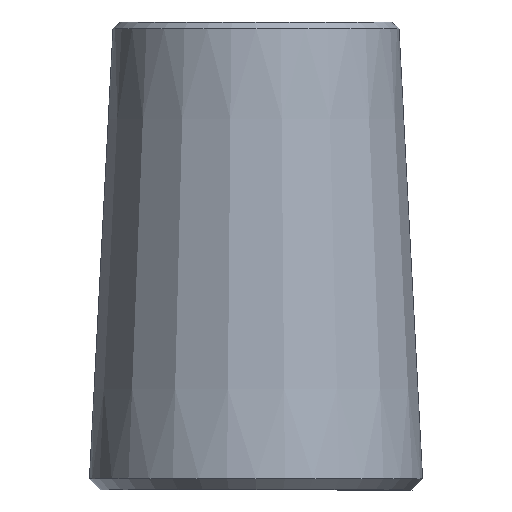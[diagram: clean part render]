
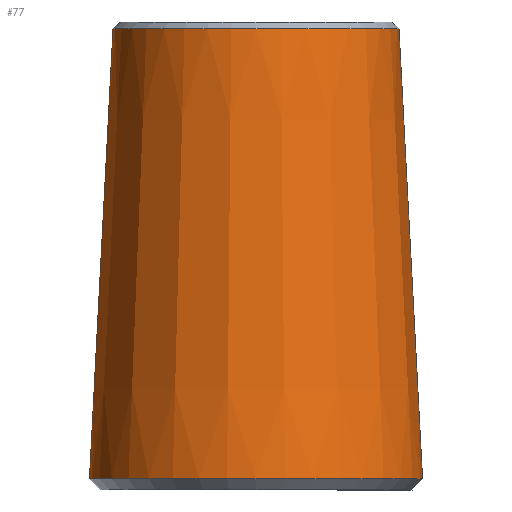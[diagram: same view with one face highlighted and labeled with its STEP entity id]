
A CAD part, left-side view. The second image highlights one B-rep face of the part: STEP entity #77.
In plain terms, the highlighted conical face has half-angle 3 degrees and reference radius 6.95 mm.
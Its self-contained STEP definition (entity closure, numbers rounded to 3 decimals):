
#20=FACE_BOUND('',#34,.T.);
#25=FACE_OUTER_BOUND('',#33,.T.);
#33=EDGE_LOOP('',(#63));
#34=EDGE_LOOP('',(#64));
#44=CIRCLE('',#87,7.474);
#45=CIRCLE('',#89,6.415);
#50=VERTEX_POINT('',#130);
#51=VERTEX_POINT('',#133);
#56=EDGE_CURVE('',#50,#50,#44,.T.);
#57=EDGE_CURVE('',#51,#51,#45,.T.);
#63=ORIENTED_EDGE('',*,*,#57,.F.);
#64=ORIENTED_EDGE('',*,*,#56,.F.);
#74=CONICAL_SURFACE('',#88,6.95,3.);
#77=ADVANCED_FACE('',(#25,#20),#74,.T.);
#87=AXIS2_PLACEMENT_3D('',#131,#104,#105);
#88=AXIS2_PLACEMENT_3D('',#132,#106,#107);
#89=AXIS2_PLACEMENT_3D('',#134,#108,#109);
#104=DIRECTION('center_axis',(0.,0.,
-1.));
#105=DIRECTION('ref_axis',(0.,1.,0.));
#106=DIRECTION('center_axis',(0.,0.,-1.));
#107=DIRECTION('ref_axis',(0.,-1.,0.));
#108=DIRECTION('center_axis',(0.,0.,1.));
#109=DIRECTION('ref_axis',(0.,1.,0.));
#130=CARTESIAN_POINT('',(0.,-7.474,0.499));
#131=CARTESIAN_POINT('Origin',(0.,0.,0.499));
#132=CARTESIAN_POINT('Origin',(0.,0.,10.5));
#133=CARTESIAN_POINT('',(0.,-6.415,20.7));
#134=CARTESIAN_POINT('Origin',(0.,0.,
20.7));
